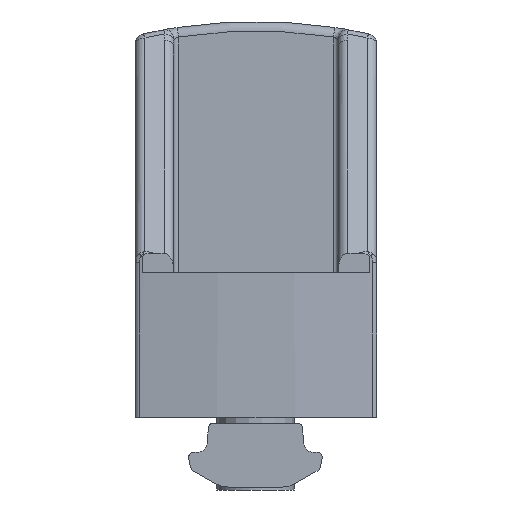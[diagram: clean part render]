
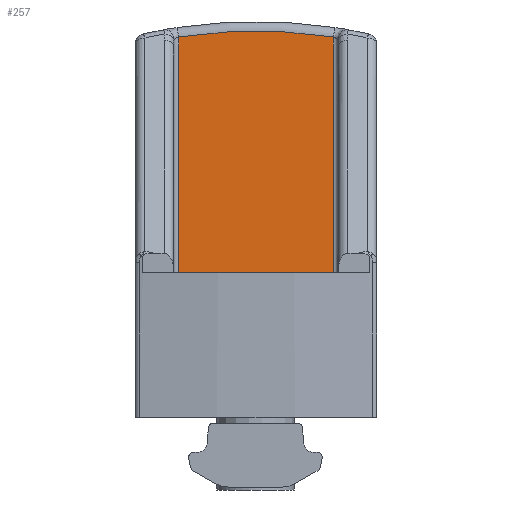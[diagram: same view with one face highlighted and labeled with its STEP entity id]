
A CAD part, left-side view. The second image highlights one B-rep face of the part: STEP entity #257.
In plain terms, the highlighted planar face has unit normal (-1, 0, 0).
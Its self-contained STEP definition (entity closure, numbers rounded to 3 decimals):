
#257=ADVANCED_FACE('',(#514),#515,.T.);
#514=FACE_OUTER_BOUND('',#1193,.T.);
#515=PLANE('',#1194);
#1193=EDGE_LOOP('',(#2574,#2575,#2576,#2577));
#1194=AXIS2_PLACEMENT_3D('',#2578,#2579,#2580);
#2574=ORIENTED_EDGE('',*,*,#3261,.T.);
#2575=ORIENTED_EDGE('',*,*,#3269,.T.);
#2576=ORIENTED_EDGE('',*,*,#3287,.F.);
#2577=ORIENTED_EDGE('',*,*,#3288,.F.);
#2578=CARTESIAN_POINT('',(17.0,15.,20.5));
#2579=DIRECTION('',(-1.0,0.0,0.0));
#2580=DIRECTION('',(0.0,-1.0,0.0));
#3261=EDGE_CURVE('',#3915,#3913,#3916,.T.);
#3269=EDGE_CURVE('',#3913,#3927,#3929,.T.);
#3287=EDGE_CURVE('',#3955,#3927,#3956,.T.);
#3288=EDGE_CURVE('',#3915,#3955,#3957,.T.);
#3913=VERTEX_POINT('',#4852);
#3915=VERTEX_POINT('',#4880);
#3916=LINE('',#4881,#4882);
#3927=VERTEX_POINT('',#4893);
#3929=CIRCLE('',#4895,51.833);
#3955=VERTEX_POINT('',#4956);
#3956=LINE('',#4957,#4958);
#3957=LINE('',#4959,#4960);
#4852=CARTESIAN_POINT('',(17.0,39.379,20.5));
#4880=CARTESIAN_POINT('',(17.0,15.,20.5));
#4881=CARTESIAN_POINT('',(17.0,15.,20.5));
#4882=VECTOR('',#5859,1.0);
#4893=CARTESIAN_POINT('',(17.0,39.379,4.5));
#4895=AXIS2_PLACEMENT_3D('',#5875,#5876,#5877);
#4956=CARTESIAN_POINT('',(17.0,15.,4.5));
#4957=CARTESIAN_POINT('',(17.0,15.,4.5));
#4958=VECTOR('',#5904,1.0);
#4959=CARTESIAN_POINT('',(17.0,15.,20.5));
#4960=VECTOR('',#5905,1.0);
#5859=DIRECTION('',(0.0,1.0,0.0));
#5875=CARTESIAN_POINT('',(17.0,-11.833,12.5));
#5876=DIRECTION('',(-1.0,0.0,0.0));
#5877=DIRECTION('',(0.0,0.0,1.0));
#5904=DIRECTION('',(0.0,1.0,0.0));
#5905=DIRECTION('',(0.0,0.0,-1.0));
